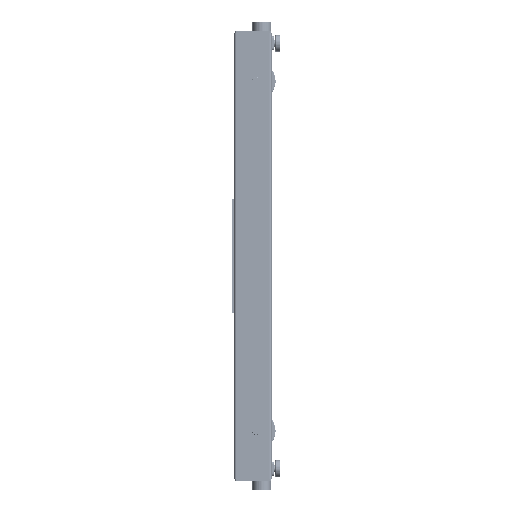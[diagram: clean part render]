
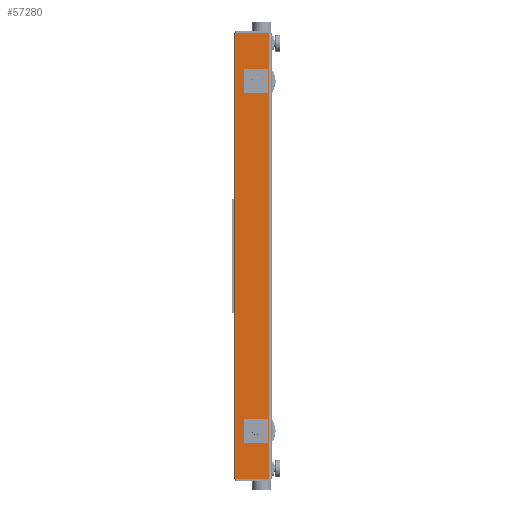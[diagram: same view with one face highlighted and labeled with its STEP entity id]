
A CAD part, left-side view. The second image highlights one B-rep face of the part: STEP entity #57280.
In plain terms, the highlighted planar face has unit normal (-1, 0, 0).
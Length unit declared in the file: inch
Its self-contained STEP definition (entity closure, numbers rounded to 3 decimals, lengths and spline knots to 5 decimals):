
#2252 = ORIENTED_EDGE ( 'NONE', *, *, #102780, .T. ) ;
#2291 = CIRCLE ( 'NONE', #110971, 0.886 ) ;
#2405 = DIRECTION ( 'NONE',  ( 1., 0., 0. ) ) ;
#2411 = VERTEX_POINT ( 'NONE', #17152 ) ;
#3432 = ORIENTED_EDGE ( 'NONE', *, *, #181378, .T. ) ;
#3450 = CARTESIAN_POINT ( 'NONE',  ( 0., 0.5, 47.21875 ) ) ;
#8258 = LINE ( 'NONE', #156106, #36913 ) ;
#8481 = LINE ( 'NONE', #51250, #154094 ) ;
#9277 = EDGE_LOOP ( 'NONE', ( #79729, #2252 ) ) ;
#11786 = CARTESIAN_POINT ( 'NONE',  ( 0., 3.335, 37.00025 ) ) ;
#17152 = CARTESIAN_POINT ( 'NONE',  ( 0., 7.5, 47.21875 ) ) ;
#19419 = CARTESIAN_POINT ( 'NONE',  ( 0., 0.5, 47.21875 ) ) ;
#20850 = VECTOR ( 'NONE', #130962, 39.37008 ) ;
#29148 = DIRECTION ( 'NONE',  ( 0., 1., 0. ) ) ;
#35545 = EDGE_CURVE ( 'NONE', #97386, #153453, #144452, .T. ) ;
#36913 = VECTOR ( 'NONE', #143379, 39.37008 ) ;
#51250 = CARTESIAN_POINT ( 'NONE',  ( 0., 7.5, 47.21875 ) ) ;
#53247 = VERTEX_POINT ( 'NONE', #175106 ) ;
#53730 = EDGE_LOOP ( 'NONE', ( #3432, #179422, #71842, #115872 ) ) ;
#57280 = ADVANCED_FACE ( 'NONE', ( #77255, #121103, #166871 ), #136656, .F. ) ;
#61769 = CARTESIAN_POINT ( 'NONE',  ( 0., 3.335, -36.11375 ) ) ;
#62655 = DIRECTION ( 'NONE',  ( 0., 1., 0. ) ) ;
#67773 = CARTESIAN_POINT ( 'NONE',  ( 0., 3.335, 36.11425 ) ) ;
#67985 = CARTESIAN_POINT ( 'NONE',  ( 0., 0.5, 47.21875 ) ) ;
#71038 = DIRECTION ( 'NONE',  ( 1., 0., 0. ) ) ;
#71241 = EDGE_CURVE ( 'NONE', #53247, #142669, #187487, .T. ) ;
#71622 = CARTESIAN_POINT ( 'NONE',  ( 0., 0.5, -47.21875 ) ) ;
#71842 = ORIENTED_EDGE ( 'NONE', *, *, #140199, .F. ) ;
#72169 = EDGE_CURVE ( 'NONE', #153453, #97386, #134934, .T. ) ;
#72939 = DIRECTION ( 'NONE',  ( 0., 1., 0. ) ) ;
#73926 = VERTEX_POINT ( 'NONE', #67985 ) ;
#77255 = FACE_BOUND ( 'NONE', #78280, .T. ) ;
#78280 = EDGE_LOOP ( 'NONE', ( #103810, #127166 ) ) ;
#79729 = ORIENTED_EDGE ( 'NONE', *, *, #71241, .T. ) ;
#80663 = EDGE_CURVE ( 'NONE', #73926, #116404, #8258, .T. ) ;
#89401 = DIRECTION ( 'NONE',  ( 1., 0., 0. ) ) ;
#94552 = AXIS2_PLACEMENT_3D ( 'NONE', #11786, #71038, #72939 ) ;
#97386 = VERTEX_POINT ( 'NONE', #145041 ) ;
#102141 = CARTESIAN_POINT ( 'NONE',  ( 0., 0.5, -47.21875 ) ) ;
#102780 = EDGE_CURVE ( 'NONE', #142669, #53247, #2291, .T. ) ;
#103044 = CARTESIAN_POINT ( 'NONE',  ( 0., 3.335, -36.99975 ) ) ;
#103365 = VERTEX_POINT ( 'NONE', #166140 ) ;
#103810 = ORIENTED_EDGE ( 'NONE', *, *, #72169, .T. ) ;
#107866 = DIRECTION ( 'NONE',  ( 0., -1., 0. ) ) ;
#110264 = AXIS2_PLACEMENT_3D ( 'NONE', #135624, #2405, #62655 ) ;
#110971 = AXIS2_PLACEMENT_3D ( 'NONE', #154141, #137597, #138551 ) ;
#115872 = ORIENTED_EDGE ( 'NONE', *, *, #159641, .T. ) ;
#116404 = VERTEX_POINT ( 'NONE', #102141 ) ;
#121103 = FACE_BOUND ( 'NONE', #9277, .T. ) ;
#122464 = LINE ( 'NONE', #19419, #183084 ) ;
#127166 = ORIENTED_EDGE ( 'NONE', *, *, #35545, .T. ) ;
#130962 = DIRECTION ( 'NONE',  ( 0., -1., 0. ) ) ;
#134934 = CIRCLE ( 'NONE', #94552, 0.886 ) ;
#135624 = CARTESIAN_POINT ( 'NONE',  ( 0., 3.335, 37.00025 ) ) ;
#136656 = PLANE ( 'NONE',  #156568 ) ;
#137597 = DIRECTION ( 'NONE',  ( 1., 0., 0. ) ) ;
#138551 = DIRECTION ( 'NONE',  ( 0., 1., 0. ) ) ;
#140199 = EDGE_CURVE ( 'NONE', #2411, #73926, #122464, .T. ) ;
#140722 = DIRECTION ( 'NONE',  ( 0., 0., -1. ) ) ;
#140772 = AXIS2_PLACEMENT_3D ( 'NONE', #103044, #89401, #29148 ) ;
#142669 = VERTEX_POINT ( 'NONE', #61769 ) ;
#143379 = DIRECTION ( 'NONE',  ( 0., 0., -1. ) ) ;
#144452 = CIRCLE ( 'NONE', #110264, 0.886 ) ;
#145041 = CARTESIAN_POINT ( 'NONE',  ( 0., 3.335, 37.88625 ) ) ;
#152240 = DIRECTION ( 'NONE',  ( 1., 0., 0. ) ) ;
#153222 = DIRECTION ( 'NONE',  ( 0., 1., 0. ) ) ;
#153453 = VERTEX_POINT ( 'NONE', #67773 ) ;
#154094 = VECTOR ( 'NONE', #140722, 39.37008 ) ;
#154141 = CARTESIAN_POINT ( 'NONE',  ( 0., 3.335, -36.99975 ) ) ;
#156106 = CARTESIAN_POINT ( 'NONE',  ( 0., 0.5, 47.21875 ) ) ;
#156568 = AXIS2_PLACEMENT_3D ( 'NONE', #3450, #152240, #153222 ) ;
#159641 = EDGE_CURVE ( 'NONE', #2411, #103365, #8481, .T. ) ;
#166140 = CARTESIAN_POINT ( 'NONE',  ( 0., 7.5, -47.21875 ) ) ;
#166871 = FACE_OUTER_BOUND ( 'NONE', #53730, .T. ) ;
#171238 = LINE ( 'NONE', #71622, #20850 ) ;
#175106 = CARTESIAN_POINT ( 'NONE',  ( 0., 3.335, -37.88575 ) ) ;
#179422 = ORIENTED_EDGE ( 'NONE', *, *, #80663, .F. ) ;
#181378 = EDGE_CURVE ( 'NONE', #103365, #116404, #171238, .T. ) ;
#183084 = VECTOR ( 'NONE', #107866, 39.37008 ) ;
#187487 = CIRCLE ( 'NONE', #140772, 0.886 ) ;
